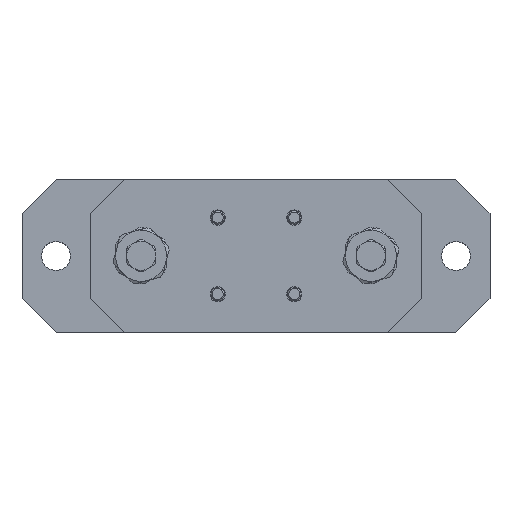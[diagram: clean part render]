
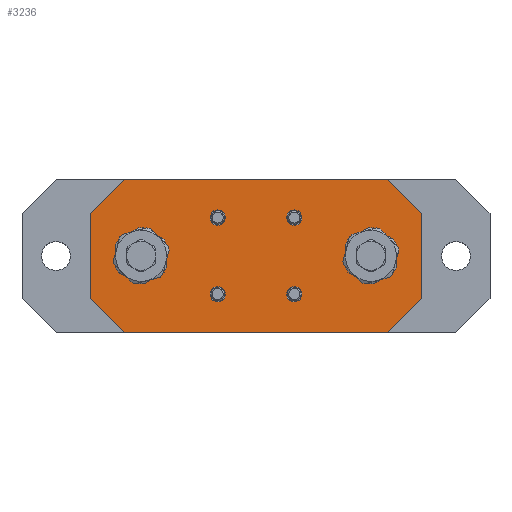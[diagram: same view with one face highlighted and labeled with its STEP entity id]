
A CAD part, top view. The second image highlights one B-rep face of the part: STEP entity #3236.
In plain terms, the highlighted planar face has unit normal (0, 0, 1).
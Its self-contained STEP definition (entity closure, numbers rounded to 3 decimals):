
#270=FACE_BOUND('',#611,.T.);
#271=FACE_BOUND('',#612,.T.);
#272=FACE_BOUND('',#613,.T.);
#273=FACE_BOUND('',#614,.T.);
#308=PLANE('',#3766);
#402=FACE_OUTER_BOUND('',#610,.T.);
#610=EDGE_LOOP('',(#2323,#2324,#2325,#2326,#2327,#2328,#2329,#2330));
#611=EDGE_LOOP('',(#2331,#2332));
#612=EDGE_LOOP('',(#2333,#2334));
#613=EDGE_LOOP('',(#2335,#2336));
#614=EDGE_LOOP('',(#2337,#2338));
#824=LINE('',#5343,#996);
#828=LINE('',#5350,#1000);
#831=LINE('',#5356,#1003);
#834=LINE('',#5362,#1006);
#837=LINE('',#5368,#1009);
#840=LINE('',#5374,#1012);
#843=LINE('',#5380,#1015);
#845=LINE('',#5383,#1017);
#996=VECTOR('',#4300,1.);
#1000=VECTOR('',#4306,1.);
#1003=VECTOR('',#4311,1.);
#1006=VECTOR('',#4316,1.);
#1009=VECTOR('',#4321,1.);
#1012=VECTOR('',#4326,1.);
#1015=VECTOR('',#4331,1.);
#1017=VECTOR('',#4335,1.);
#1140=CIRCLE('',#3714,4.5);
#1141=CIRCLE('',#3715,4.5);
#1144=CIRCLE('',#3719,4.5);
#1145=CIRCLE('',#3720,4.5);
#1148=CIRCLE('',#3724,4.5);
#1149=CIRCLE('',#3725,4.5);
#1152=CIRCLE('',#3729,4.5);
#1153=CIRCLE('',#3730,4.5);
#1372=VERTEX_POINT('',#5253);
#1373=VERTEX_POINT('',#5254);
#1376=VERTEX_POINT('',#5263);
#1377=VERTEX_POINT('',#5264);
#1380=VERTEX_POINT('',#5273);
#1381=VERTEX_POINT('',#5274);
#1384=VERTEX_POINT('',#5283);
#1385=VERTEX_POINT('',#5284);
#1406=VERTEX_POINT('',#5340);
#1407=VERTEX_POINT('',#5342);
#1409=VERTEX_POINT('',#5348);
#1411=VERTEX_POINT('',#5354);
#1413=VERTEX_POINT('',#5360);
#1415=VERTEX_POINT('',#5366);
#1417=VERTEX_POINT('',#5372);
#1419=VERTEX_POINT('',#5378);
#1698=EDGE_CURVE('',#1372,#1373,#1140,.T.);
#1699=EDGE_CURVE('',#1373,#1372,#1141,.T.);
#1703=EDGE_CURVE('',#1376,#1377,#1144,.T.);
#1704=EDGE_CURVE('',#1377,#1376,#1145,.T.);
#1708=EDGE_CURVE('',#1380,#1381,#1148,.T.);
#1709=EDGE_CURVE('',#1381,#1380,#1149,.T.);
#1713=EDGE_CURVE('',#1384,#1385,#1152,.T.);
#1714=EDGE_CURVE('',#1385,#1384,#1153,.T.);
#1740=EDGE_CURVE('',#1407,#1406,#824,.T.);
#1744=EDGE_CURVE('',#1406,#1409,#828,.T.);
#1747=EDGE_CURVE('',#1409,#1411,#831,.T.);
#1750=EDGE_CURVE('',#1411,#1413,#834,.T.);
#1753=EDGE_CURVE('',#1413,#1415,#837,.T.);
#1756=EDGE_CURVE('',#1415,#1417,#840,.T.);
#1759=EDGE_CURVE('',#1417,#1419,#843,.T.);
#1761=EDGE_CURVE('',#1419,#1407,#845,.T.);
#2323=ORIENTED_EDGE('',*,*,#1761,.T.);
#2324=ORIENTED_EDGE('',*,*,#1740,.T.);
#2325=ORIENTED_EDGE('',*,*,#1744,.T.);
#2326=ORIENTED_EDGE('',*,*,#1747,.T.);
#2327=ORIENTED_EDGE('',*,*,#1750,.T.);
#2328=ORIENTED_EDGE('',*,*,#1753,.T.);
#2329=ORIENTED_EDGE('',*,*,#1756,.T.);
#2330=ORIENTED_EDGE('',*,*,#1759,.T.);
#2331=ORIENTED_EDGE('',*,*,#1698,.T.);
#2332=ORIENTED_EDGE('',*,*,#1699,.T.);
#2333=ORIENTED_EDGE('',*,*,#1703,.T.);
#2334=ORIENTED_EDGE('',*,*,#1704,.T.);
#2335=ORIENTED_EDGE('',*,*,#1708,.T.);
#2336=ORIENTED_EDGE('',*,*,#1709,.T.);
#2337=ORIENTED_EDGE('',*,*,#1713,.T.);
#2338=ORIENTED_EDGE('',*,*,#1714,.T.);
#3236=ADVANCED_FACE('',(#402,#270,#271,#272,#273),#308,.F.);
#3714=AXIS2_PLACEMENT_3D('',#5255,#4202,#4203);
#3715=AXIS2_PLACEMENT_3D('',#5256,#4204,#4205);
#3719=AXIS2_PLACEMENT_3D('',#5265,#4213,#4214);
#3720=AXIS2_PLACEMENT_3D('',#5266,#4215,#4216);
#3724=AXIS2_PLACEMENT_3D('',#5275,#4224,#4225);
#3725=AXIS2_PLACEMENT_3D('',#5276,#4226,#4227);
#3729=AXIS2_PLACEMENT_3D('',#5285,#4235,#4236);
#3730=AXIS2_PLACEMENT_3D('',#5286,#4237,#4238);
#3766=AXIS2_PLACEMENT_3D('',#5385,#4338,#4339);
#4202=DIRECTION('center_axis',(0.,0.,-1.));
#4203=DIRECTION('ref_axis',(1.,0.,0.));
#4204=DIRECTION('center_axis',(0.,0.,-1.));
#4205=DIRECTION('ref_axis',(1.,0.,0.));
#4213=DIRECTION('center_axis',(0.,0.,-1.));
#4214=DIRECTION('ref_axis',(0.,1.,0.));
#4215=DIRECTION('center_axis',(0.,0.,-1.));
#4216=DIRECTION('ref_axis',(0.,1.,0.));
#4224=DIRECTION('center_axis',(0.,0.,-1.));
#4225=DIRECTION('ref_axis',(-1.,0.,0.));
#4226=DIRECTION('center_axis',(0.,0.,-1.));
#4227=DIRECTION('ref_axis',(-1.,0.,0.));
#4235=DIRECTION('center_axis',(0.,0.,-1.));
#4236=DIRECTION('ref_axis',(0.,-1.,0.));
#4237=DIRECTION('center_axis',(0.,0.,-1.));
#4238=DIRECTION('ref_axis',(0.,-1.,0.));
#4300=DIRECTION('',(0.,1.,0.));
#4306=DIRECTION('',(-0.707,0.707,0.));
#4311=DIRECTION('',(-1.,0.,0.));
#4316=DIRECTION('',(-0.707,-0.707,0.));
#4321=DIRECTION('',(0.,-1.,0.));
#4326=DIRECTION('',(0.707,-0.707,0.));
#4331=DIRECTION('',(1.,0.,0.));
#4335=DIRECTION('',(0.707,0.707,0.));
#4338=DIRECTION('center_axis',(0.,0.,-1.));
#4339=DIRECTION('ref_axis',(0.,-1.,0.));
#5253=CARTESIAN_POINT('',(27.,-22.5,56.));
#5254=CARTESIAN_POINT('',(18.,-22.5,56.));
#5255=CARTESIAN_POINT('Origin',(22.5,-22.5,56.));
#5256=CARTESIAN_POINT('Origin',(22.5,-22.5,56.));
#5263=CARTESIAN_POINT('',(22.5,27.,56.));
#5264=CARTESIAN_POINT('',(22.5,18.,56.));
#5265=CARTESIAN_POINT('Origin',(22.5,22.5,56.));
#5266=CARTESIAN_POINT('Origin',(22.5,22.5,56.));
#5273=CARTESIAN_POINT('',(-27.,22.5,56.));
#5274=CARTESIAN_POINT('',(-18.,22.5,56.));
#5275=CARTESIAN_POINT('Origin',(-22.5,22.5,56.));
#5276=CARTESIAN_POINT('Origin',(-22.5,22.5,56.));
#5283=CARTESIAN_POINT('',(-22.5,-27.,56.));
#5284=CARTESIAN_POINT('',(-22.5,-18.,56.));
#5285=CARTESIAN_POINT('Origin',(-22.5,-22.5,56.));
#5286=CARTESIAN_POINT('Origin',(-22.5,-22.5,56.));
#5340=CARTESIAN_POINT('',(97.5,25.,56.));
#5342=CARTESIAN_POINT('',(97.5,-25.,56.));
#5343=CARTESIAN_POINT('',(97.5,-25.,56.));
#5348=CARTESIAN_POINT('',(77.5,45.,56.));
#5350=CARTESIAN_POINT('',(97.5,25.,56.));
#5354=CARTESIAN_POINT('',(-77.5,45.,56.));
#5356=CARTESIAN_POINT('',(77.5,45.,56.));
#5360=CARTESIAN_POINT('',(-97.5,25.,56.));
#5362=CARTESIAN_POINT('',(-77.5,45.,56.));
#5366=CARTESIAN_POINT('',(-97.5,-25.,56.));
#5368=CARTESIAN_POINT('',(-97.5,25.,56.));
#5372=CARTESIAN_POINT('',(-77.5,-45.,56.));
#5374=CARTESIAN_POINT('',(-97.5,-25.,56.));
#5378=CARTESIAN_POINT('',(77.5,-45.,56.));
#5380=CARTESIAN_POINT('',(-77.5,-45.,56.));
#5383=CARTESIAN_POINT('',(77.5,-45.,56.));
#5385=CARTESIAN_POINT('Origin',(0.,0.,56.));
